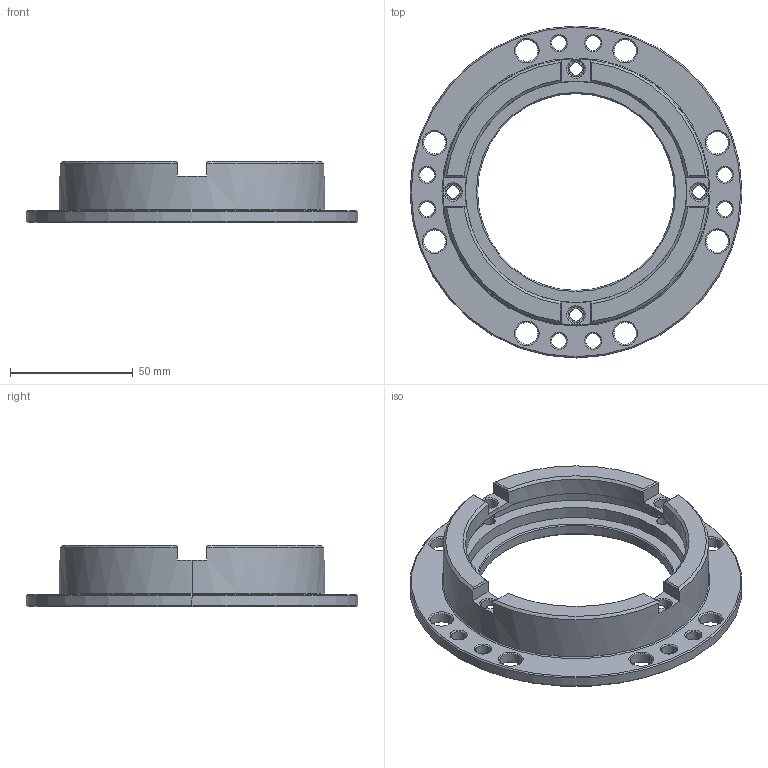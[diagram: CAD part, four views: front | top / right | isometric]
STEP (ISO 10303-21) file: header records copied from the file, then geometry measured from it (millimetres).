
FILE_DESCRIPTION (( 'STEP AP203' ), '1' );
FILE_NAME ('BP135.STEP', '2016-10-13T10:05:30', ( 'admin' ), ( '' ), 'SwSTEP 2.0', 'SolidWorks 2015', '' );
FILE_SCHEMA (( 'CONFIG_CONTROL_DESIGN' ));
Length unit declared in the file: millimetre
Products named in the file (1): BP135
Bounding box: 135 x 135 x 25 mm (x, y, z)
Volume: 85700.8 mm3; surface area: 36896.2 mm2
Topology: 1 solids, 1 shells, 182 faces, 460 edges, 278 vertices
Faces by surface type: cone 92, cylinder 62, plane 28
Entity records: 5767 total; most frequent: CARTESIAN_POINT 1119, DIRECTION 1020, ORIENTED_EDGE 920, EDGE_CURVE 460, AXIS2_PLACEMENT_3D 415, VERTEX_POINT 278, CIRCLE 232, EDGE_LOOP 230
